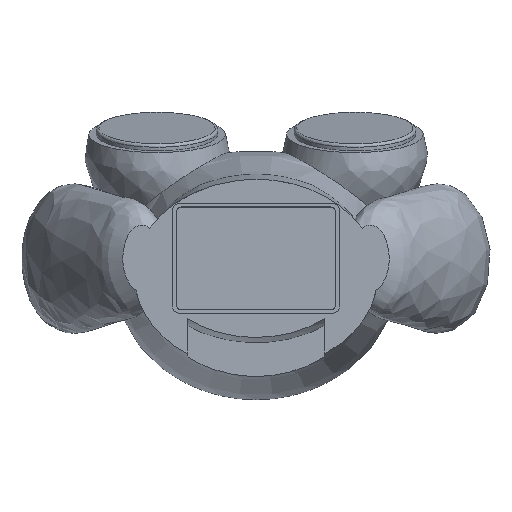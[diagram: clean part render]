
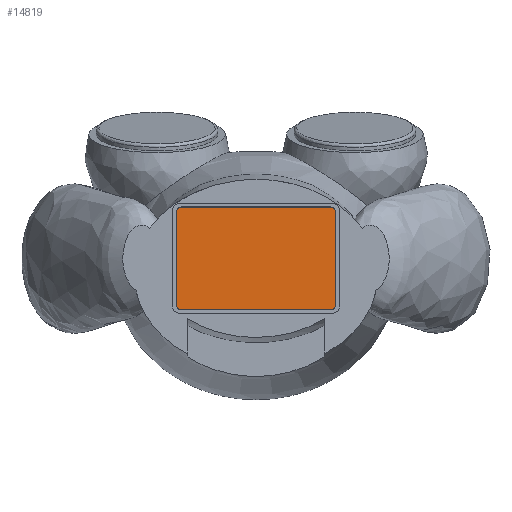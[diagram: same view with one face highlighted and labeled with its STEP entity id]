
A CAD part, top view. The second image highlights one B-rep face of the part: STEP entity #14819.
In plain terms, the highlighted planar face has unit normal (0, 0, 1).
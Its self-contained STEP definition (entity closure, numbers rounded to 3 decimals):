
#13524 = PLANE('',#13525);
#13525 = AXIS2_PLACEMENT_3D('',#13526,#13527,#13528);
#13526 = CARTESIAN_POINT('',(-11.3,-7.3,28.7));
#13527 = DIRECTION('',(0.,1.,0.));
#13528 = DIRECTION('',(1.,0.,0.));
#13552 = CYLINDRICAL_SURFACE('',#13553,0.7);
#13553 = AXIS2_PLACEMENT_3D('',#13554,#13555,#13556);
#13554 = CARTESIAN_POINT('',(-10.6,-6.6,28.7));
#13555 = DIRECTION('',(0.,0.,1.));
#13556 = DIRECTION('',(0.,-1.,0.));
#13579 = PLANE('',#13580);
#13580 = AXIS2_PLACEMENT_3D('',#13581,#13582,#13583);
#13581 = CARTESIAN_POINT('',(-11.3,7.3,28.7));
#13582 = DIRECTION('',(1.,0.,-0.));
#13583 = DIRECTION('',(0.,-1.,0.));
#13607 = CYLINDRICAL_SURFACE('',#13608,0.7);
#13608 = AXIS2_PLACEMENT_3D('',#13609,#13610,#13611);
#13609 = CARTESIAN_POINT('',(-10.6,6.6,28.7));
#13610 = DIRECTION('',(0.,0.,1.));
#13611 = DIRECTION('',(-0.,1.,0.));
#13634 = PLANE('',#13635);
#13635 = AXIS2_PLACEMENT_3D('',#13636,#13637,#13638);
#13636 = CARTESIAN_POINT('',(11.3,7.3,28.7));
#13637 = DIRECTION('',(0.,-1.,0.));
#13638 = DIRECTION('',(-1.,0.,0.));
#13662 = CYLINDRICAL_SURFACE('',#13663,0.7);
#13663 = AXIS2_PLACEMENT_3D('',#13664,#13665,#13666);
#13664 = CARTESIAN_POINT('',(10.6,6.6,28.7));
#13665 = DIRECTION('',(0.,0.,1.));
#13666 = DIRECTION('',(1.,0.,-0.));
#13689 = PLANE('',#13690);
#13690 = AXIS2_PLACEMENT_3D('',#13691,#13692,#13693);
#13691 = CARTESIAN_POINT('',(11.3,-7.3,28.7));
#13692 = DIRECTION('',(-1.,0.,0.));
#13693 = DIRECTION('',(0.,1.,0.));
#13715 = CYLINDRICAL_SURFACE('',#13716,0.7);
#13716 = AXIS2_PLACEMENT_3D('',#13717,#13718,#13719);
#13717 = CARTESIAN_POINT('',(10.6,-6.6,28.7));
#13718 = DIRECTION('',(0.,0.,1.));
#13719 = DIRECTION('',(0.,-1.,0.));
#14234 = EDGE_CURVE('',#14235,#14237,#14239,.T.);
#14235 = VERTEX_POINT('',#14236);
#14236 = CARTESIAN_POINT('',(-10.6,-7.3,28.7));
#14237 = VERTEX_POINT('',#14238);
#14238 = CARTESIAN_POINT('',(10.6,-7.3,28.7));
#14239 = SURFACE_CURVE('',#14240,(#14244,#14251),.PCURVE_S1.);
#14240 = LINE('',#14241,#14242);
#14241 = CARTESIAN_POINT('',(-11.3,-7.3,28.7));
#14242 = VECTOR('',#14243,1.);
#14243 = DIRECTION('',(1.,0.,0.));
#14244 = PCURVE('',#13524,#14245);
#14245 = DEFINITIONAL_REPRESENTATION('',(#14246),#14250);
#14246 = LINE('',#14247,#14248);
#14247 = CARTESIAN_POINT('',(0.,0.));
#14248 = VECTOR('',#14249,1.);
#14249 = DIRECTION('',(1.,0.));
#14250 = ( GEOMETRIC_REPRESENTATION_CONTEXT(2) 
PARAMETRIC_REPRESENTATION_CONTEXT() REPRESENTATION_CONTEXT('2D SPACE',''
  ) );
#14251 = PCURVE('',#14252,#14257);
#14252 = PLANE('',#14253);
#14253 = AXIS2_PLACEMENT_3D('',#14254,#14255,#14256);
#14254 = CARTESIAN_POINT('',(0.,0.,28.7));
#14255 = DIRECTION('',(0.,0.,1.));
#14256 = DIRECTION('',(1.,0.,-0.));
#14257 = DEFINITIONAL_REPRESENTATION('',(#14258),#14262);
#14258 = LINE('',#14259,#14260);
#14259 = CARTESIAN_POINT('',(-11.3,-7.3));
#14260 = VECTOR('',#14261,1.);
#14261 = DIRECTION('',(1.,0.));
#14262 = ( GEOMETRIC_REPRESENTATION_CONTEXT(2) 
PARAMETRIC_REPRESENTATION_CONTEXT() REPRESENTATION_CONTEXT('2D SPACE',''
  ) );
#14311 = EDGE_CURVE('',#14237,#14312,#14314,.T.);
#14312 = VERTEX_POINT('',#14313);
#14313 = CARTESIAN_POINT('',(11.3,-6.6,28.7));
#14314 = SURFACE_CURVE('',#14315,(#14320,#14327),.PCURVE_S1.);
#14315 = CIRCLE('',#14316,0.7);
#14316 = AXIS2_PLACEMENT_3D('',#14317,#14318,#14319);
#14317 = CARTESIAN_POINT('',(10.6,-6.6,28.7));
#14318 = DIRECTION('',(0.,0.,1.));
#14319 = DIRECTION('',(0.,-1.,0.));
#14320 = PCURVE('',#13715,#14321);
#14321 = DEFINITIONAL_REPRESENTATION('',(#14322),#14326);
#14322 = LINE('',#14323,#14324);
#14323 = CARTESIAN_POINT('',(0.,0.));
#14324 = VECTOR('',#14325,1.);
#14325 = DIRECTION('',(1.,0.));
#14326 = ( GEOMETRIC_REPRESENTATION_CONTEXT(2) 
PARAMETRIC_REPRESENTATION_CONTEXT() REPRESENTATION_CONTEXT('2D SPACE',''
  ) );
#14327 = PCURVE('',#14252,#14328);
#14328 = DEFINITIONAL_REPRESENTATION('',(#14329),#14333);
#14329 = CIRCLE('',#14330,0.7);
#14330 = AXIS2_PLACEMENT_2D('',#14331,#14332);
#14331 = CARTESIAN_POINT('',(10.6,-6.6));
#14332 = DIRECTION('',(0.,-1.));
#14333 = ( GEOMETRIC_REPRESENTATION_CONTEXT(2) 
PARAMETRIC_REPRESENTATION_CONTEXT() REPRESENTATION_CONTEXT('2D SPACE',''
  ) );
#14360 = EDGE_CURVE('',#14312,#14361,#14363,.T.);
#14361 = VERTEX_POINT('',#14362);
#14362 = CARTESIAN_POINT('',(11.3,6.6,28.7));
#14363 = SURFACE_CURVE('',#14364,(#14368,#14375),.PCURVE_S1.);
#14364 = LINE('',#14365,#14366);
#14365 = CARTESIAN_POINT('',(11.3,-7.3,28.7));
#14366 = VECTOR('',#14367,1.);
#14367 = DIRECTION('',(0.,1.,0.));
#14368 = PCURVE('',#13689,#14369);
#14369 = DEFINITIONAL_REPRESENTATION('',(#14370),#14374);
#14370 = LINE('',#14371,#14372);
#14371 = CARTESIAN_POINT('',(0.,0.));
#14372 = VECTOR('',#14373,1.);
#14373 = DIRECTION('',(1.,0.));
#14374 = ( GEOMETRIC_REPRESENTATION_CONTEXT(2) 
PARAMETRIC_REPRESENTATION_CONTEXT() REPRESENTATION_CONTEXT('2D SPACE',''
  ) );
#14375 = PCURVE('',#14252,#14376);
#14376 = DEFINITIONAL_REPRESENTATION('',(#14377),#14381);
#14377 = LINE('',#14378,#14379);
#14378 = CARTESIAN_POINT('',(11.3,-7.3));
#14379 = VECTOR('',#14380,1.);
#14380 = DIRECTION('',(0.,1.));
#14381 = ( GEOMETRIC_REPRESENTATION_CONTEXT(2) 
PARAMETRIC_REPRESENTATION_CONTEXT() REPRESENTATION_CONTEXT('2D SPACE',''
  ) );
#14410 = EDGE_CURVE('',#14361,#14411,#14413,.T.);
#14411 = VERTEX_POINT('',#14412);
#14412 = CARTESIAN_POINT('',(10.6,7.3,28.7));
#14413 = SURFACE_CURVE('',#14414,(#14419,#14426),.PCURVE_S1.);
#14414 = CIRCLE('',#14415,0.7);
#14415 = AXIS2_PLACEMENT_3D('',#14416,#14417,#14418);
#14416 = CARTESIAN_POINT('',(10.6,6.6,28.7));
#14417 = DIRECTION('',(0.,0.,1.));
#14418 = DIRECTION('',(0.,-1.,0.));
#14419 = PCURVE('',#13662,#14420);
#14420 = DEFINITIONAL_REPRESENTATION('',(#14421),#14425);
#14421 = LINE('',#14422,#14423);
#14422 = CARTESIAN_POINT('',(-1.571,0.));
#14423 = VECTOR('',#14424,1.);
#14424 = DIRECTION('',(1.,0.));
#14425 = ( GEOMETRIC_REPRESENTATION_CONTEXT(2) 
PARAMETRIC_REPRESENTATION_CONTEXT() REPRESENTATION_CONTEXT('2D SPACE',''
  ) );
#14426 = PCURVE('',#14252,#14427);
#14427 = DEFINITIONAL_REPRESENTATION('',(#14428),#14432);
#14428 = CIRCLE('',#14429,0.7);
#14429 = AXIS2_PLACEMENT_2D('',#14430,#14431);
#14430 = CARTESIAN_POINT('',(10.6,6.6));
#14431 = DIRECTION('',(0.,-1.));
#14432 = ( GEOMETRIC_REPRESENTATION_CONTEXT(2) 
PARAMETRIC_REPRESENTATION_CONTEXT() REPRESENTATION_CONTEXT('2D SPACE',''
  ) );
#14459 = EDGE_CURVE('',#14411,#14460,#14462,.T.);
#14460 = VERTEX_POINT('',#14461);
#14461 = CARTESIAN_POINT('',(-10.6,7.3,28.7));
#14462 = SURFACE_CURVE('',#14463,(#14467,#14474),.PCURVE_S1.);
#14463 = LINE('',#14464,#14465);
#14464 = CARTESIAN_POINT('',(11.3,7.3,28.7));
#14465 = VECTOR('',#14466,1.);
#14466 = DIRECTION('',(-1.,0.,0.));
#14467 = PCURVE('',#13634,#14468);
#14468 = DEFINITIONAL_REPRESENTATION('',(#14469),#14473);
#14469 = LINE('',#14470,#14471);
#14470 = CARTESIAN_POINT('',(0.,-0.));
#14471 = VECTOR('',#14472,1.);
#14472 = DIRECTION('',(1.,0.));
#14473 = ( GEOMETRIC_REPRESENTATION_CONTEXT(2) 
PARAMETRIC_REPRESENTATION_CONTEXT() REPRESENTATION_CONTEXT('2D SPACE',''
  ) );
#14474 = PCURVE('',#14252,#14475);
#14475 = DEFINITIONAL_REPRESENTATION('',(#14476),#14480);
#14476 = LINE('',#14477,#14478);
#14477 = CARTESIAN_POINT('',(11.3,7.3));
#14478 = VECTOR('',#14479,1.);
#14479 = DIRECTION('',(-1.,0.));
#14480 = ( GEOMETRIC_REPRESENTATION_CONTEXT(2) 
PARAMETRIC_REPRESENTATION_CONTEXT() REPRESENTATION_CONTEXT('2D SPACE',''
  ) );
#14509 = EDGE_CURVE('',#14460,#14510,#14512,.T.);
#14510 = VERTEX_POINT('',#14511);
#14511 = CARTESIAN_POINT('',(-11.3,6.6,28.7));
#14512 = SURFACE_CURVE('',#14513,(#14518,#14525),.PCURVE_S1.);
#14513 = CIRCLE('',#14514,0.7);
#14514 = AXIS2_PLACEMENT_3D('',#14515,#14516,#14517);
#14515 = CARTESIAN_POINT('',(-10.6,6.6,28.7));
#14516 = DIRECTION('',(0.,0.,1.));
#14517 = DIRECTION('',(0.,-1.,0.));
#14518 = PCURVE('',#13607,#14519);
#14519 = DEFINITIONAL_REPRESENTATION('',(#14520),#14524);
#14520 = LINE('',#14521,#14522);
#14521 = CARTESIAN_POINT('',(-3.142,0.));
#14522 = VECTOR('',#14523,1.);
#14523 = DIRECTION('',(1.,0.));
#14524 = ( GEOMETRIC_REPRESENTATION_CONTEXT(2) 
PARAMETRIC_REPRESENTATION_CONTEXT() REPRESENTATION_CONTEXT('2D SPACE',''
  ) );
#14525 = PCURVE('',#14252,#14526);
#14526 = DEFINITIONAL_REPRESENTATION('',(#14527),#14531);
#14527 = CIRCLE('',#14528,0.7);
#14528 = AXIS2_PLACEMENT_2D('',#14529,#14530);
#14529 = CARTESIAN_POINT('',(-10.6,6.6));
#14530 = DIRECTION('',(0.,-1.));
#14531 = ( GEOMETRIC_REPRESENTATION_CONTEXT(2) 
PARAMETRIC_REPRESENTATION_CONTEXT() REPRESENTATION_CONTEXT('2D SPACE',''
  ) );
#14558 = EDGE_CURVE('',#14510,#14559,#14561,.T.);
#14559 = VERTEX_POINT('',#14560);
#14560 = CARTESIAN_POINT('',(-11.3,-6.6,28.7));
#14561 = SURFACE_CURVE('',#14562,(#14566,#14573),.PCURVE_S1.);
#14562 = LINE('',#14563,#14564);
#14563 = CARTESIAN_POINT('',(-11.3,7.3,28.7));
#14564 = VECTOR('',#14565,1.);
#14565 = DIRECTION('',(0.,-1.,0.));
#14566 = PCURVE('',#13579,#14567);
#14567 = DEFINITIONAL_REPRESENTATION('',(#14568),#14572);
#14568 = LINE('',#14569,#14570);
#14569 = CARTESIAN_POINT('',(0.,0.));
#14570 = VECTOR('',#14571,1.);
#14571 = DIRECTION('',(1.,0.));
#14572 = ( GEOMETRIC_REPRESENTATION_CONTEXT(2) 
PARAMETRIC_REPRESENTATION_CONTEXT() REPRESENTATION_CONTEXT('2D SPACE',''
  ) );
#14573 = PCURVE('',#14252,#14574);
#14574 = DEFINITIONAL_REPRESENTATION('',(#14575),#14579);
#14575 = LINE('',#14576,#14577);
#14576 = CARTESIAN_POINT('',(-11.3,7.3));
#14577 = VECTOR('',#14578,1.);
#14578 = DIRECTION('',(0.,-1.));
#14579 = ( GEOMETRIC_REPRESENTATION_CONTEXT(2) 
PARAMETRIC_REPRESENTATION_CONTEXT() REPRESENTATION_CONTEXT('2D SPACE',''
  ) );
#14608 = EDGE_CURVE('',#14235,#14559,#14609,.T.);
#14609 = SURFACE_CURVE('',#14610,(#14615,#14622),.PCURVE_S1.);
#14610 = CIRCLE('',#14611,0.7);
#14611 = AXIS2_PLACEMENT_3D('',#14612,#14613,#14614);
#14612 = CARTESIAN_POINT('',(-10.6,-6.6,28.7));
#14613 = DIRECTION('',(-0.,-0.,-1.));
#14614 = DIRECTION('',(0.,-1.,0.));
#14615 = PCURVE('',#13552,#14616);
#14616 = DEFINITIONAL_REPRESENTATION('',(#14617),#14621);
#14617 = LINE('',#14618,#14619);
#14618 = CARTESIAN_POINT('',(-0.,0.));
#14619 = VECTOR('',#14620,1.);
#14620 = DIRECTION('',(-1.,0.));
#14621 = ( GEOMETRIC_REPRESENTATION_CONTEXT(2) 
PARAMETRIC_REPRESENTATION_CONTEXT() REPRESENTATION_CONTEXT('2D SPACE',''
  ) );
#14622 = PCURVE('',#14252,#14623);
#14623 = DEFINITIONAL_REPRESENTATION('',(#14624),#14632);
#14624 = ( BOUNDED_CURVE() B_SPLINE_CURVE(2,(#14625,#14626,#14627,#14628
    ,#14629,#14630,#14631),.UNSPECIFIED.,.T.,.F.) 
B_SPLINE_CURVE_WITH_KNOTS((1,2,2,2,2,1),(-2.094,0.,
    2.094,4.189,6.283,8.378),
.UNSPECIFIED.) CURVE() GEOMETRIC_REPRESENTATION_ITEM() 
RATIONAL_B_SPLINE_CURVE((1.,0.5,1.,0.5,1.,0.5,1.)) REPRESENTATION_ITEM(
  '') );
#14625 = CARTESIAN_POINT('',(-10.6,-7.3));
#14626 = CARTESIAN_POINT('',(-11.812,-7.3));
#14627 = CARTESIAN_POINT('',(-11.206,-6.25));
#14628 = CARTESIAN_POINT('',(-10.6,-5.2));
#14629 = CARTESIAN_POINT('',(-9.994,-6.25));
#14630 = CARTESIAN_POINT('',(-9.388,-7.3));
#14631 = CARTESIAN_POINT('',(-10.6,-7.3));
#14632 = ( GEOMETRIC_REPRESENTATION_CONTEXT(2) 
PARAMETRIC_REPRESENTATION_CONTEXT() REPRESENTATION_CONTEXT('2D SPACE',''
  ) );
#14819 = ADVANCED_FACE('',(#14820),#14252,.T.);
#14820 = FACE_BOUND('',#14821,.T.);
#14821 = EDGE_LOOP('',(#14822,#14823,#14824,#14825,#14826,#14827,#14828,
    #14829));
#14822 = ORIENTED_EDGE('',*,*,#14234,.T.);
#14823 = ORIENTED_EDGE('',*,*,#14311,.T.);
#14824 = ORIENTED_EDGE('',*,*,#14360,.T.);
#14825 = ORIENTED_EDGE('',*,*,#14410,.T.);
#14826 = ORIENTED_EDGE('',*,*,#14459,.T.);
#14827 = ORIENTED_EDGE('',*,*,#14509,.T.);
#14828 = ORIENTED_EDGE('',*,*,#14558,.T.);
#14829 = ORIENTED_EDGE('',*,*,#14608,.F.);
